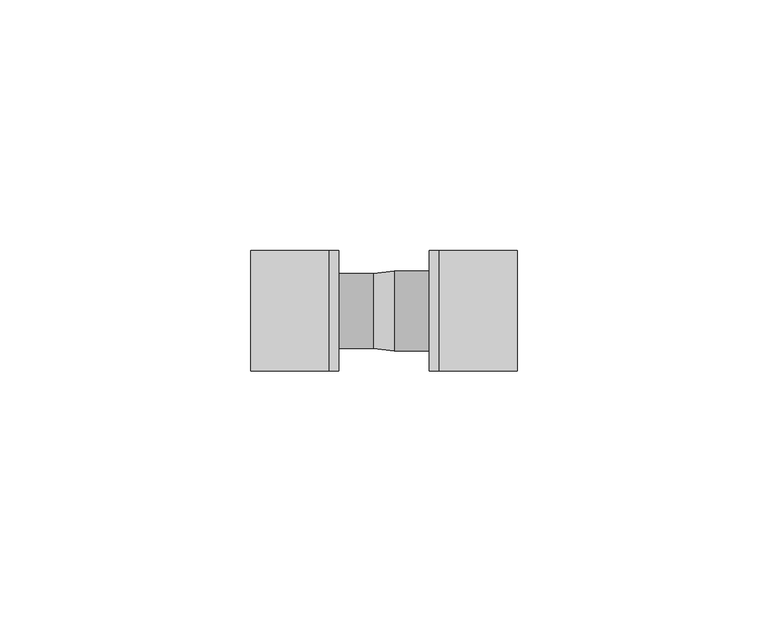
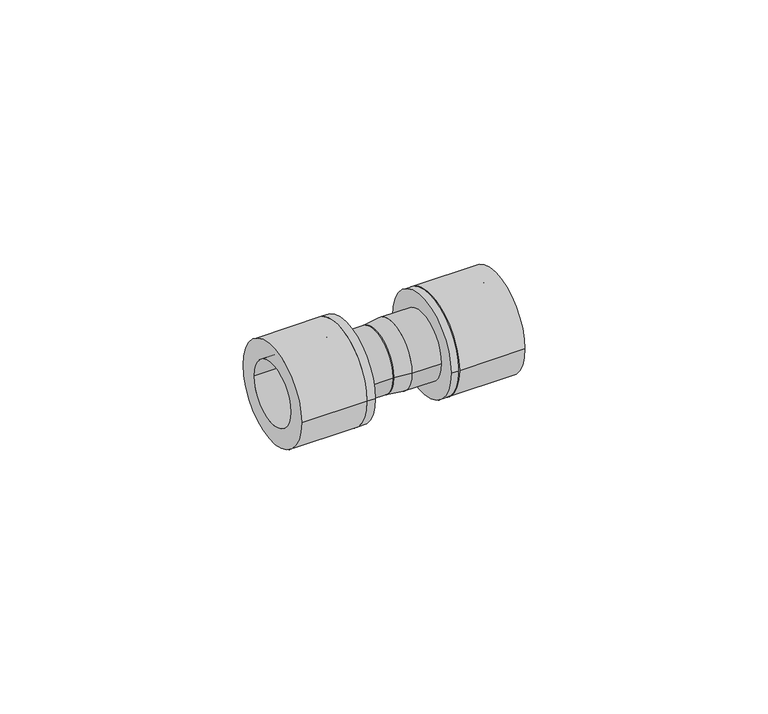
"""IFC4 building model written with IfcOpenShell, lengths in millimetres: pipe fitting geometry, ADSK_Пресс-фитинг ПЭ_Муфта переходная : Пластик черный."""

from ifc_helpers import new_model, si_unit, point, frame, origin, origin_2d, place, context, project, spatial, polyline, circle_curve, trimmed, segment, composite_curve, outline, extrude, source, transform, mapped, element, save
from ifc_brep_helpers import plane_surface, revolved_surface, advanced_brep


def pipe_fitting_994f7cf0(model_context):
    return source(origin(), model_context, "Body", "SolidModel", [
        advanced_brep(
        [(2.0, -8.0, 0.0), (2.0, 8.0, 0.0), (-2.0, -7.5, 0.0), (-2.0, 7.5, 0.0)],
        [
            (0, 1, circle_curve(frame((2.0, 0.0, 0.0), z_axis=(1.0, 0.0, 0.0), x_axis=(0.0, -1.0, 0.0)), 8.0)),
            (1, 0, circle_curve(frame((2.0, 0.0, 0.0), z_axis=(1.0, 0.0, 0.0), x_axis=(0.0, 1.0, 0.0)), 8.0)),
            (2, 3, circle_curve(frame((-2.0, 0.0, 0.0), z_axis=(-1.0, 0.0, 0.0), x_axis=(0.0, 1.0, 0.0)), 7.5)),
            (3, 2, circle_curve(frame((-2.0, 0.0, 0.0), z_axis=(-1.0, 0.0, 0.0), x_axis=(0.0, -1.0, 0.0)), 7.5)),
            (3, 1),
            (0, 2),
        ],
        [
            plane_surface(frame((2.0, 0.0, 0.0), z_axis=(1.0, 0.0, 0.0), x_axis=(0.0, 0.0, -1.0))),
            plane_surface(frame((-2.0, 0.0, 0.0), z_axis=(-1.0, 0.0, 0.0), x_axis=(0.0, 0.0, -1.0))),
            revolved_surface(polyline([(-2.0, 7.5, 0.0), (2.0, 8.0, 0.0)]), (-62.0, 0.0, 0.0), (1.0, 0.0, 0.0)),
            revolved_surface(polyline([(-2.0, -7.5, 0.0), (2.0, -8.0, 0.0)]), (-62.0, 0.0, 0.0), (1.0, 0.0, 0.0)),
        ],
        [
            (0, [[1, 2]]),
            (1, [[3, 4]]),
            (2, [[-4, 5, -1, 6]]),
            (3, [[-3, -6, -2, -5]]),
        ],
    ),
        extrude(outline(composite_curve([segment(trimmed(circle_curve(origin_2d(), 8.0), [point((-8.0, 0.0))], [point((8.0, 0.0))], False, "CARTESIAN"), True, "CONTINUOUS"), segment(trimmed(circle_curve(origin_2d(), 8.0), [point((8.0, 0.0))], [point((-8.0, 0.0))], False, "CARTESIAN"), True, "CONTINUOUS")], self_intersect=False)), frame((2.0, 0.0, 0.0), z_axis=(1.0, 0.0, 0.0), x_axis=(0.0, 1.0, 0.0)), (0.0, 0.0, 1.0), 7.0),
        extrude(outline(composite_curve([segment(trimmed(circle_curve(origin_2d(), 7.5), [point((-7.5, 0.0))], [point((7.5, 0.0))], False, "CARTESIAN"), True, "CONTINUOUS"), segment(trimmed(circle_curve(origin_2d(), 7.5), [point((7.5, 0.0))], [point((-7.5, 0.0))], False, "CARTESIAN"), True, "CONTINUOUS")], self_intersect=False)), frame((-9.0, 0.0, 0.0), z_axis=(1.0, 0.0, 0.0), x_axis=(0.0, 1.0, 0.0)), (0.0, 0.0, 1.0), 7.0),
        extrude(outline(composite_curve([segment(trimmed(circle_curve(origin_2d(), 12.0), [point((-12.0, 0.0))], [point((12.0, 0.0))], False, "CARTESIAN"), True, "CONTINUOUS"), segment(trimmed(circle_curve(origin_2d(), 12.0), [point((12.0, 0.0))], [point((-12.0, 0.0))], False, "CARTESIAN"), True, "CONTINUOUS")], self_intersect=False), holes=[composite_curve([segment(trimmed(circle_curve(origin_2d(), 8.0), [point((-8.0, 0.0))], [point((8.0, 0.0))], True, "CARTESIAN"), True, "CONTINUOUS"), segment(trimmed(circle_curve(origin_2d(), 8.0), [point((8.0, 0.0))], [point((-8.0, 0.0))], True, "CARTESIAN"), True, "CONTINUOUS")], self_intersect=False)]), frame((11.0, 0.0, 0.0), z_axis=(1.0, 0.0, 0.0), x_axis=(0.0, 1.0, 0.0)), (0.0, 0.0, 1.0), 15.5),
        extrude(outline(composite_curve([segment(trimmed(circle_curve(origin_2d(), 12.0), [point((-12.0, 0.0))], [point((12.0, 0.0))], False, "CARTESIAN"), True, "CONTINUOUS"), segment(trimmed(circle_curve(origin_2d(), 12.0), [point((12.0, 0.0))], [point((-12.0, 0.0))], False, "CARTESIAN"), True, "CONTINUOUS")], self_intersect=False), holes=[composite_curve([segment(trimmed(circle_curve(origin_2d(), 7.5), [point((-7.5, 0.0))], [point((7.5, 0.0))], True, "CARTESIAN"), True, "CONTINUOUS"), segment(trimmed(circle_curve(origin_2d(), 7.5), [point((7.5, 0.0))], [point((-7.5, 0.0))], True, "CARTESIAN"), True, "CONTINUOUS")], self_intersect=False)]), frame((-26.5, 0.0, 0.0), z_axis=(1.0, 0.0, 0.0), x_axis=(0.0, 1.0, 0.0)), (0.0, 0.0, 1.0), 15.5),
        extrude(outline(composite_curve([segment(trimmed(circle_curve(origin_2d(), 12.0), [point((-12.0, 0.0))], [point((12.0, 0.0))], False, "CARTESIAN"), True, "CONTINUOUS"), segment(trimmed(circle_curve(origin_2d(), 12.0), [point((12.0, 0.0))], [point((-12.0, 0.0))], False, "CARTESIAN"), True, "CONTINUOUS")], self_intersect=False)), frame((9.0, 0.0, 0.0), z_axis=(1.0, 0.0, 0.0), x_axis=(0.0, 1.0, 0.0)), (0.0, 0.0, 1.0), 2.0),
        extrude(outline(composite_curve([segment(trimmed(circle_curve(origin_2d(), 12.0), [point((-12.0, 0.0))], [point((12.0, 0.0))], False, "CARTESIAN"), True, "CONTINUOUS"), segment(trimmed(circle_curve(origin_2d(), 12.0), [point((12.0, 0.0))], [point((-12.0, 0.0))], False, "CARTESIAN"), True, "CONTINUOUS")], self_intersect=False)), frame((-11.0, 0.0, 0.0), z_axis=(1.0, 0.0, 0.0), x_axis=(0.0, 1.0, 0.0)), (0.0, 0.0, 1.0), 2.0),
    ])


if __name__ == "__main__":
    model = new_model("IFC4")
    model_context = context("Model", 3, world=origin())
    ifc_project = project(units=[si_unit("LENGTHUNIT", "METRE", prefix="MILLI")], contexts=[model_context])
    site = spatial("IfcSite", under=ifc_project)
    building = spatial("IfcBuilding", under=site)
    placement = place(None, origin())
    pipe_fitting_shape = pipe_fitting_994f7cf0(model_context)
    element("IfcPipeFitting", 1, ObjectType="ADSK_Пресс-фитинг ПЭ_Муфта переходная : Пластик черный", at=placement, inside=building, context=model_context, shape_type="MappedRepresentation", body=[
        mapped(pipe_fitting_shape, transform((0.0, 0.0, 0.0), x_axis=(1.0, 0.0, 0.0), y_axis=(0.0, 1.0, 0.0), z_axis=(0.0, 0.0, 1.0))),
    ])
    save(model, "model.ifc")
